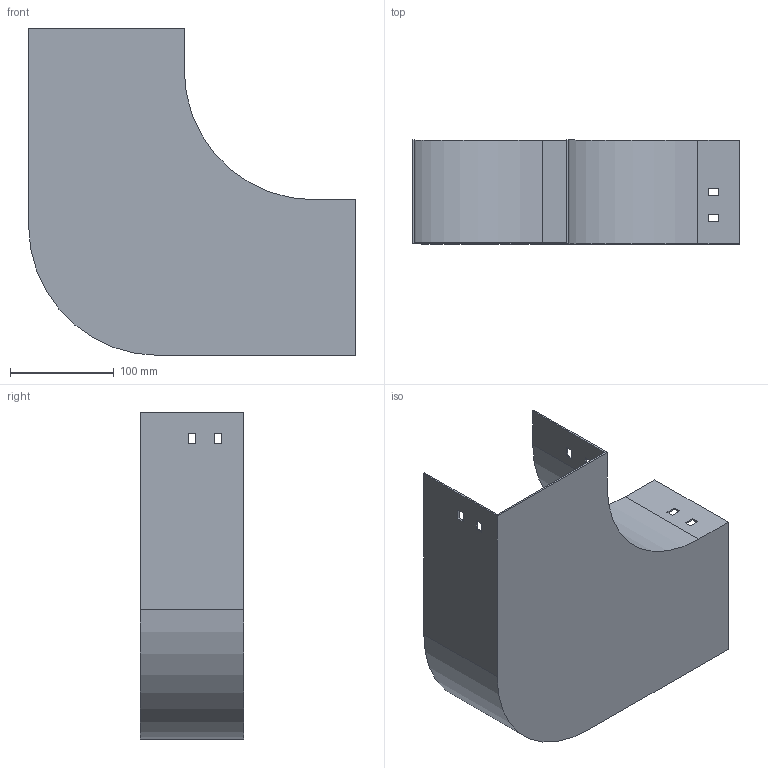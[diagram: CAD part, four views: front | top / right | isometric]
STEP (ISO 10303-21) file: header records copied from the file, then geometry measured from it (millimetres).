
FILE_DESCRIPTION (( 'STEP AP214' ), '1' );
FILE_NAME ('P9_151.step', '2025-07-16T09:20:23', ( '' ), ( '' ), 'SwSTEP 2.0', 'SolidWorks 2023', '' );
FILE_SCHEMA (( 'AUTOMOTIVE_DESIGN' ));
Length unit declared in the file: millimetre
Products named in the file (1): P9_151
Bounding box: 315 x 100 x 315 mm (x, y, z)
Volume: 233146.3 mm3; surface area: 313589.8 mm2
Topology: 1 solids, 1 shells, 50 faces, 144 edges, 96 vertices
Faces by surface type: plane 46, cylinder 4
Entity records: 1671 total; most frequent: CARTESIAN_POINT 291, ORIENTED_EDGE 288, DIRECTION 254, EDGE_CURVE 144, VECTOR 136, LINE 136, VERTEX_POINT 96, EDGE_LOOP 66
